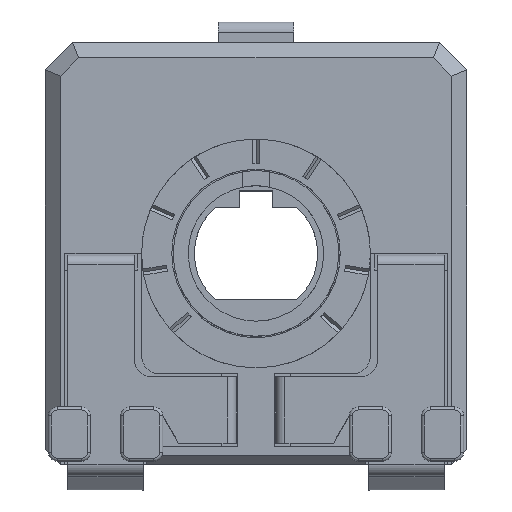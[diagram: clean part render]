
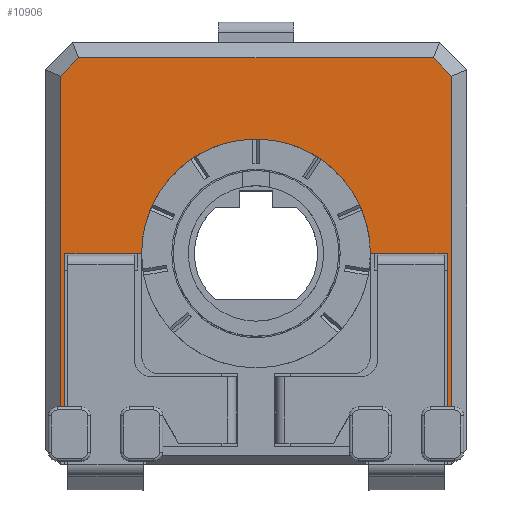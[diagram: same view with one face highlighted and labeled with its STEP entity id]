
A CAD part, top view. The second image highlights one B-rep face of the part: STEP entity #10906.
In plain terms, the highlighted planar face has unit normal (0, 0, 1).
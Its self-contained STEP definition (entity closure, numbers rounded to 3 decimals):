
#464=CIRCLE('',#11694,3.8);
#948=FACE_OUTER_BOUND('',#1509,.T.);
#1509=EDGE_LOOP('',(#9192,#9193,#9194,#9195,#9196,#9197,#9198,#9199,#9200,
#9201,#9202,#9203));
#1867=LINE('',#15452,#3102);
#1935=LINE('',#15705,#3170);
#2175=LINE('',#16448,#3410);
#2178=LINE('',#16453,#3413);
#2450=LINE('',#17105,#3685);
#2483=LINE('',#17232,#3718);
#2706=LINE('',#17781,#3941);
#2707=LINE('',#17784,#3942);
#2708=LINE('',#17785,#3943);
#2709=LINE('',#17788,#3944);
#2710=LINE('',#17789,#3945);
#3102=VECTOR('',#12449,10.);
#3170=VECTOR('',#12731,10.);
#3410=VECTOR('',#13257,10.);
#3413=VECTOR('',#13262,10.);
#3685=VECTOR('',#13684,10.);
#3718=VECTOR('',#13759,10.);
#3941=VECTOR('',#14280,10.);
#3942=VECTOR('',#14283,10.);
#3943=VECTOR('',#14284,10.);
#3944=VECTOR('',#14287,10.);
#3945=VECTOR('',#14288,10.);
#4274=VERTEX_POINT('',#15253);
#4333=VERTEX_POINT('',#15451);
#4410=VERTEX_POINT('',#15702);
#4411=VERTEX_POINT('',#15704);
#4458=VERTEX_POINT('',#15858);
#4459=VERTEX_POINT('',#15860);
#4614=VERTEX_POINT('',#16444);
#4615=VERTEX_POINT('',#16446);
#4824=VERTEX_POINT('',#17101);
#4850=VERTEX_POINT('',#17231);
#4981=VERTEX_POINT('',#17783);
#4982=VERTEX_POINT('',#17787);
#5424=EDGE_CURVE('',#4333,#4274,#1867,.T.);
#5550=EDGE_CURVE('',#4411,#4410,#1935,.T.);
#5856=EDGE_CURVE('',#4615,#4614,#2175,.T.);
#5859=EDGE_CURVE('',#4614,#4410,#2178,.T.);
#6152=EDGE_CURVE('',#4333,#4824,#2450,.T.);
#6197=EDGE_CURVE('',#4824,#4850,#2483,.T.);
#6447=EDGE_CURVE('',#4850,#4615,#2706,.T.);
#6448=EDGE_CURVE('',#4274,#4981,#2707,.T.);
#6449=EDGE_CURVE('',#4981,#4459,#2708,.T.);
#6450=EDGE_CURVE('',#4459,#4458,#464,.T.);
#6451=EDGE_CURVE('',#4458,#4982,#2709,.T.);
#6452=EDGE_CURVE('',#4982,#4411,#2710,.T.);
#9192=ORIENTED_EDGE('',*,*,#5424,.T.);
#9193=ORIENTED_EDGE('',*,*,#6448,.T.);
#9194=ORIENTED_EDGE('',*,*,#6449,.T.);
#9195=ORIENTED_EDGE('',*,*,#6450,.T.);
#9196=ORIENTED_EDGE('',*,*,#6451,.T.);
#9197=ORIENTED_EDGE('',*,*,#6452,.T.);
#9198=ORIENTED_EDGE('',*,*,#5550,.T.);
#9199=ORIENTED_EDGE('',*,*,#5859,.F.);
#9200=ORIENTED_EDGE('',*,*,#5856,.F.);
#9201=ORIENTED_EDGE('',*,*,#6447,.F.);
#9202=ORIENTED_EDGE('',*,*,#6197,.F.);
#9203=ORIENTED_EDGE('',*,*,#6152,.F.);
#10155=PLANE('',#11693);
#10906=ADVANCED_FACE('',(#948),#10155,.T.);
#11693=AXIS2_PLACEMENT_3D('',#17782,#14281,#14282);
#11694=AXIS2_PLACEMENT_3D('',#17786,#14285,#14286);
#12449=DIRECTION('',(1.,0.,0.));
#12731=DIRECTION('',(1.,0.,0.));
#13257=DIRECTION('',(0.707,-0.707,0.));
#13262=DIRECTION('',(0.,-1.,0.));
#13684=DIRECTION('',(0.,1.,0.));
#13759=DIRECTION('',(0.707,0.707,0.));
#14280=DIRECTION('',(1.,0.,0.));
#14281=DIRECTION('center_axis',(0.,0.,1.));
#14282=DIRECTION('ref_axis',(1.,0.,0.));
#14283=DIRECTION('',(0.,1.,0.));
#14284=DIRECTION('',(1.,0.,0.));
#14285=DIRECTION('center_axis',(0.,0.,-1.));
#14286=DIRECTION('ref_axis',(-1.,0.,0.));
#14287=DIRECTION('',(1.,0.,0.));
#14288=DIRECTION('',(0.,-1.,0.));
#15253=CARTESIAN_POINT('',(-13.817,-7.998,4.4));
#15451=CARTESIAN_POINT('',(-13.967,-7.998,4.4));
#15452=CARTESIAN_POINT('',(-10.217,-7.998,4.4));
#15702=CARTESIAN_POINT('',(-0.967,-7.998,4.4));
#15704=CARTESIAN_POINT('',(-1.117,-7.998,4.4));
#15705=CARTESIAN_POINT('',(-4.017,-7.998,4.4));
#15858=CARTESIAN_POINT('',(-3.667,-2.898,4.4));
#15860=CARTESIAN_POINT('',(-11.267,-2.898,4.4));
#16444=CARTESIAN_POINT('',(-0.967,2.994,4.4));
#16446=CARTESIAN_POINT('',(-1.574,3.602,4.4));
#16448=CARTESIAN_POINT('',(-1.271,3.298,4.4));
#16453=CARTESIAN_POINT('',(-0.967,0.602,4.4));
#17101=CARTESIAN_POINT('',(-13.967,2.994,4.4));
#17105=CARTESIAN_POINT('',(-13.967,-6.398,4.4));
#17231=CARTESIAN_POINT('',(-13.36,3.602,4.4));
#17232=CARTESIAN_POINT('',(-13.663,3.298,4.4));
#17781=CARTESIAN_POINT('',(-10.967,3.602,4.4));
#17782=CARTESIAN_POINT('Origin',(-7.467,-2.898,4.4));
#17783=CARTESIAN_POINT('',(-13.817,-2.898,4.4));
#17784=CARTESIAN_POINT('',(-13.817,-3.173,4.4));
#17785=CARTESIAN_POINT('',(-9.442,-2.898,4.4));
#17786=CARTESIAN_POINT('Origin',(-7.467,-2.898,4.4));
#17787=CARTESIAN_POINT('',(-1.117,-2.898,4.4));
#17788=CARTESIAN_POINT('',(-5.492,-2.898,4.4));
#17789=CARTESIAN_POINT('',(-1.117,-2.898,4.4));
